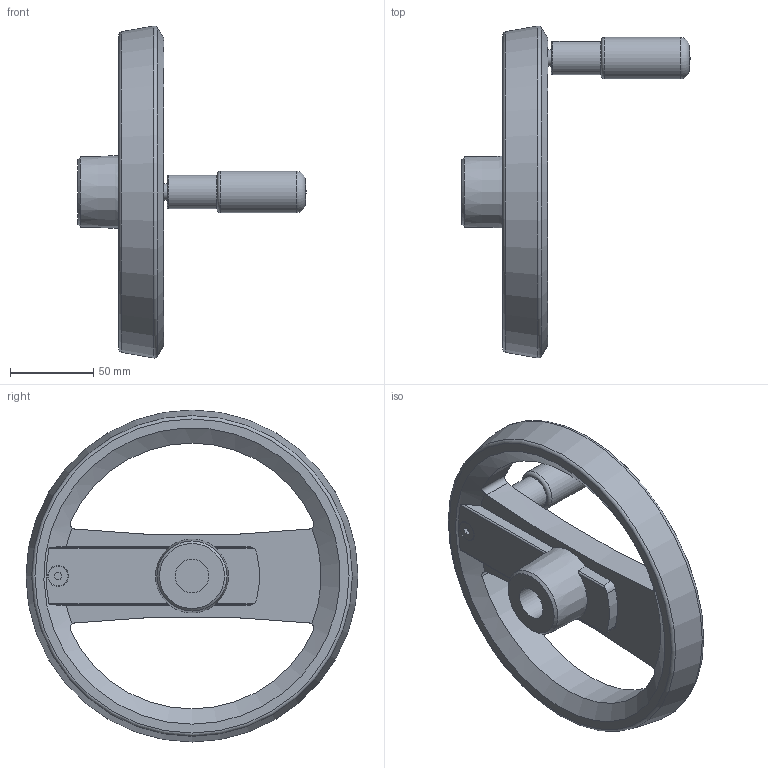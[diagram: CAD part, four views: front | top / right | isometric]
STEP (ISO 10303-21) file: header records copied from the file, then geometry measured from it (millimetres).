
FILE_DESCRIPTION( ( 'STEP AP203' ), '1' );
FILE_NAME( 'C:/Temp/Ganter_Step_05_03_2020/data/1_3/gn_924_3/gn_924_3_b/Handwheel with retractable handle GN 924.3-200-B20-R-SW (activated).stp', '2020-03-05T10:41:01', ( 'License CC BY-ND 4.0' ), ( 'CADENAS' ), ' ', 'PARTsolutions', ' ' );
FILE_SCHEMA( ( 'CONFIG_CONTROL_DESIGN' ) );
Length unit declared in the file: millimetre
Products named in the file (3): Handwheel with retractable handle GN 924.3-200-B20-R-SW (activated); _Umleggriff-Handrad GN 924.3-200-B20-R-SW-1; _Umleggriff-Handrad GN 924.3-200-B20-R-SW-2
Assembly tree (2 placements, depth 2):
  Handwheel with retractable handle GN 924.3-200-B20-R-SW (activated)
    _Umleggriff-Handrad GN 924.3-200-B20-R-SW-1
    _Umleggriff-Handrad GN 924.3-200-B20-R-SW-2
Bounding box: 137.2 x 199.58 x 199.58 mm (x, y, z)
Volume: 415738.7 mm3; surface area: 85366 mm2
Topology: 2 solids, 2 shells, 101 faces, 260 edges, 166 vertices
Faces by surface type: plane 43, cylinder 39, cone 10, torus 7, sphere 2
Full cylindrical faces by diameter (mm): 3.96 x2, 4 x2, 5 x1, 10 x1, 12 x1, 20 x2, 25 x2, 26.6 x1
Entity records: 3329 total; most frequent: CARTESIAN_POINT 909, DIRECTION 488, ORIENTED_EDGE 442, EDGE_CURVE 221, AXIS2_PLACEMENT_3D 200, VERTEX_POINT 160, EDGE_LOOP 142, FACE_OUTER_BOUND 120
